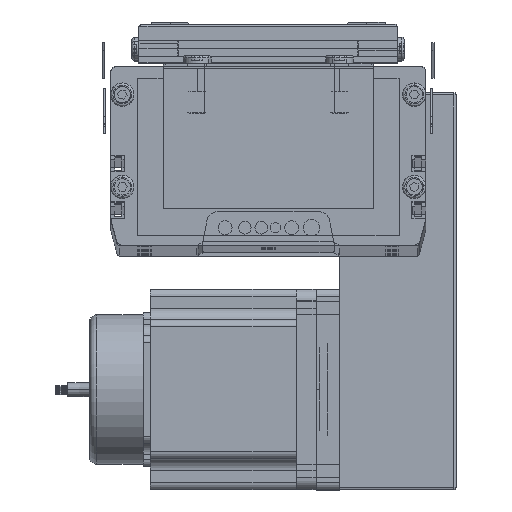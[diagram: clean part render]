
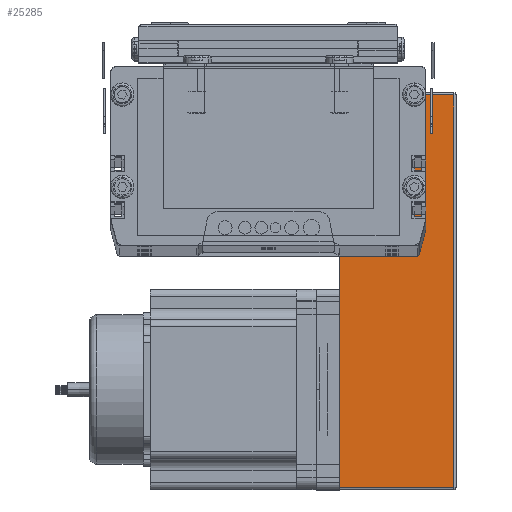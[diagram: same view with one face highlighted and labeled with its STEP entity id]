
A CAD part, top view. The second image highlights one B-rep face of the part: STEP entity #25285.
In plain terms, the highlighted planar face has unit normal (0, 0, 1) as drawn and (0, 1, 0) by its records, which use the part's own axes.
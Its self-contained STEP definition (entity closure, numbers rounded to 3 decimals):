
#25088 = VERTEX_POINT ( 'NONE', #100781 ) ;
#25100 = ORIENTED_EDGE ( 'NONE', *, *, #25314, .T. ) ;
#25126 = ORIENTED_EDGE ( 'NONE', *, *, #25181, .T. ) ;
#25154 = VERTEX_POINT ( 'NONE', #101000 ) ;
#25168 = VERTEX_POINT ( 'NONE', #101067 ) ;
#25172 = ORIENTED_EDGE ( 'NONE', *, *, #25570, .F. ) ;
#25175 = EDGE_LOOP ( 'NONE', ( #25126, #25564, #25280, #25172, #25269, #25278, #25313, #25100, #25310 ) ) ;
#25181 = EDGE_CURVE ( 'NONE', #25088, #25260, #101028, .T. ) ;
#25260 = VERTEX_POINT ( 'NONE', #101549 ) ;
#25269 = ORIENTED_EDGE ( 'NONE', *, *, #25447, .F. ) ;
#25277 = EDGE_CURVE ( 'NONE', #25652, #25260, #101602, .T. ) ;
#25278 = ORIENTED_EDGE ( 'NONE', *, *, #25597, .F. ) ;
#25280 = ORIENTED_EDGE ( 'NONE', *, *, #25565, .F. ) ;
#25285 = ADVANCED_FACE ( 'NONE', ( #101645 ), #101719, .F. ) ;
#25310 = ORIENTED_EDGE ( 'NONE', *, *, #25600, .T. ) ;
#25313 = ORIENTED_EDGE ( 'NONE', *, *, #25449, .T. ) ;
#25314 = EDGE_CURVE ( 'NONE', #25452, #25317, #101773, .T. ) ;
#25317 = VERTEX_POINT ( 'NONE', #101741 ) ;
#25446 = VERTEX_POINT ( 'NONE', #102017 ) ;
#25447 = EDGE_CURVE ( 'NONE', #25568, #25446, #102009, .T. ) ;
#25449 = EDGE_CURVE ( 'NONE', #25154, #25452, #102012, .T. ) ;
#25452 = VERTEX_POINT ( 'NONE', #102000 ) ;
#25564 = ORIENTED_EDGE ( 'NONE', *, *, #25277, .F. ) ;
#25565 = EDGE_CURVE ( 'NONE', #25168, #25652, #102226, .T. ) ;
#25568 = VERTEX_POINT ( 'NONE', #102289 ) ;
#25570 = EDGE_CURVE ( 'NONE', #25446, #25168, #102274, .T. ) ;
#25597 = EDGE_CURVE ( 'NONE', #25154, #25568, #102313, .T. ) ;
#25600 = EDGE_CURVE ( 'NONE', #25317, #25088, #102305, .T. ) ;
#25652 = VERTEX_POINT ( 'NONE', #86085 ) ;
#86085 = CARTESIAN_POINT ( 'NONE',  ( 80.439, 70., 0. ) ) ;
#100781 = CARTESIAN_POINT ( 'NONE',  ( 169., 70., 0. ) ) ;
#101000 = CARTESIAN_POINT ( 'NONE',  ( 1., 70., 0. ) ) ;
#101024 = VECTOR ( 'NONE', #101168, 1000. ) ;
#101026 = CARTESIAN_POINT ( 'NONE',  ( 0., 70., 0. ) ) ;
#101028 = LINE ( 'NONE', #101026, #101024 ) ;
#101067 = CARTESIAN_POINT ( 'NONE',  ( 74.961, 70., 0. ) ) ;
#101168 = DIRECTION ( 'NONE',  ( -1., 0., 0. ) ) ;
#101549 = CARTESIAN_POINT ( 'NONE',  ( 85.9, 70., 0. ) ) ;
#101602 = LINE ( 'NONE', #101724, #101722 ) ;
#101607 = AXIS2_PLACEMENT_3D ( 'NONE', #101705, #101704, #101703 ) ;
#101645 = FACE_OUTER_BOUND ( 'NONE', #25175, .T. ) ;
#101703 = DIRECTION ( 'NONE',  ( 0., 0., -1. ) ) ;
#101704 = DIRECTION ( 'NONE',  ( 0., -1., 0. ) ) ;
#101705 = CARTESIAN_POINT ( 'NONE',  ( 0., 70., 50. ) ) ;
#101719 = PLANE ( 'NONE',  #101607 ) ;
#101721 = DIRECTION ( 'NONE',  ( 1., 0., 0. ) ) ;
#101722 = VECTOR ( 'NONE', #101721, 1000. ) ;
#101724 = CARTESIAN_POINT ( 'NONE',  ( 0., 70., 0. ) ) ;
#101741 = CARTESIAN_POINT ( 'NONE',  ( 169., 70., 49. ) ) ;
#101754 = DIRECTION ( 'NONE',  ( 1., 0., 0. ) ) ;
#101756 = VECTOR ( 'NONE', #101754, 1000. ) ;
#101771 = CARTESIAN_POINT ( 'NONE',  ( 0., 70., 49. ) ) ;
#101773 = LINE ( 'NONE', #101771, #101756 ) ;
#101992 = DIRECTION ( 'NONE',  ( 0., 0., 1. ) ) ;
#101994 = VECTOR ( 'NONE', #101992, 1000. ) ;
#102000 = CARTESIAN_POINT ( 'NONE',  ( 1., 70., 49. ) ) ;
#102004 = DIRECTION ( 'NONE',  ( 1., 0., 0. ) ) ;
#102006 = VECTOR ( 'NONE', #102004, 1000. ) ;
#102008 = CARTESIAN_POINT ( 'NONE',  ( 0., 70., 0. ) ) ;
#102009 = LINE ( 'NONE', #102008, #102006 ) ;
#102011 = CARTESIAN_POINT ( 'NONE',  ( 1., 70., 50. ) ) ;
#102012 = LINE ( 'NONE', #102011, #101994 ) ;
#102017 = CARTESIAN_POINT ( 'NONE',  ( 10.902, 70., 0. ) ) ;
#102174 = DIRECTION ( 'NONE',  ( 1., 0., 0. ) ) ;
#102176 = VECTOR ( 'NONE', #102174, 1000. ) ;
#102225 = CARTESIAN_POINT ( 'NONE',  ( 0., 70., 0. ) ) ;
#102226 = LINE ( 'NONE', #102225, #102176 ) ;
#102271 = DIRECTION ( 'NONE',  ( 1., 0., 0. ) ) ;
#102272 = VECTOR ( 'NONE', #102271, 1000. ) ;
#102273 = CARTESIAN_POINT ( 'NONE',  ( 0., 70., 0. ) ) ;
#102274 = LINE ( 'NONE', #102273, #102272 ) ;
#102289 = CARTESIAN_POINT ( 'NONE',  ( 5.418, 70., 0. ) ) ;
#102296 = VECTOR ( 'NONE', #102418, 1000. ) ;
#102298 = CARTESIAN_POINT ( 'NONE',  ( 169., 70., 50. ) ) ;
#102305 = LINE ( 'NONE', #102298, #102296 ) ;
#102308 = DIRECTION ( 'NONE',  ( 1., 0., 0. ) ) ;
#102309 = VECTOR ( 'NONE', #102308, 1000. ) ;
#102311 = CARTESIAN_POINT ( 'NONE',  ( 0., 70., 0. ) ) ;
#102313 = LINE ( 'NONE', #102311, #102309 ) ;
#102418 = DIRECTION ( 'NONE',  ( 0., 0., -1. ) ) ;
